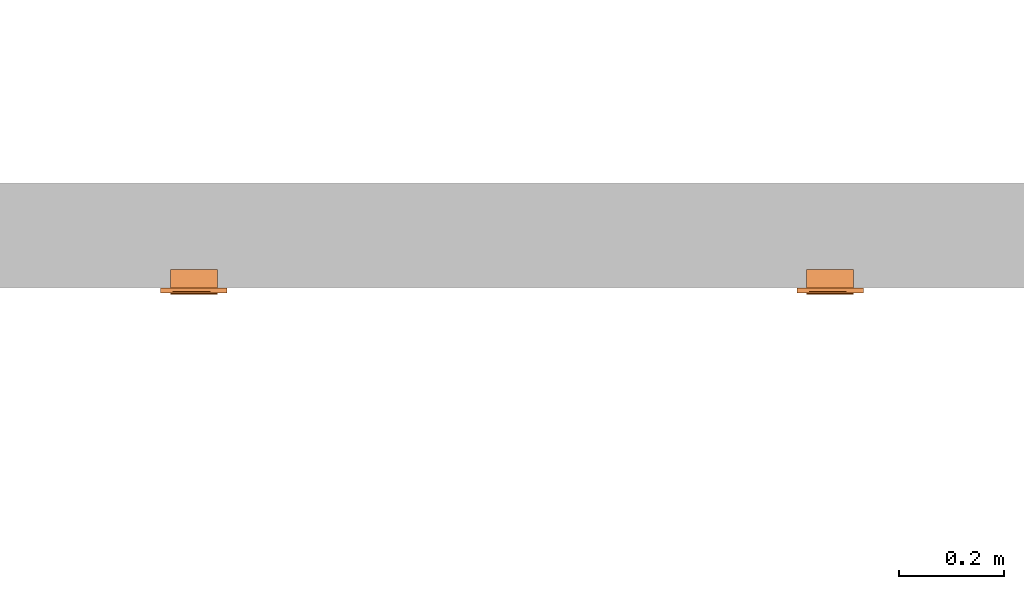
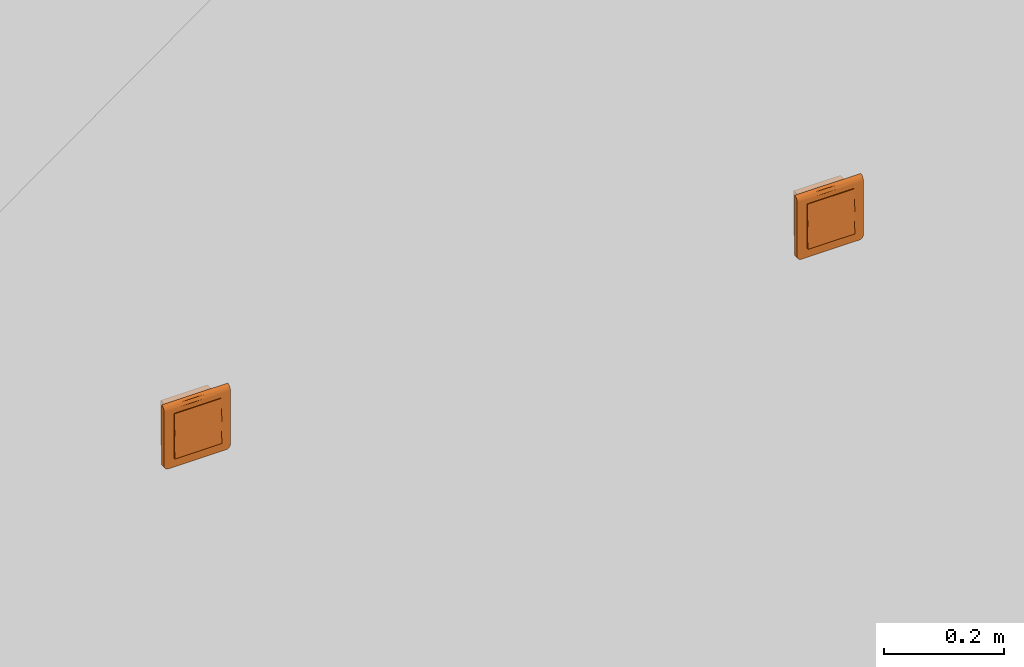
# One storey, part 178 of 197: 2 proxies.
"""IFC2X3 building model written with IfcOpenShell, lengths in metres."""

import ifcopenshell
import ifcopenshell.guid

model = None  # the IFC model being written
_history = None  # IfcOwnerHistory: only IFC2X3 demands one
_inside = {}  # id of a spatial element -> (the spatial element, [elements in it])
_under = {}  # id of a project, library or spatial element -> (it, [spatial elements below it])
_declared = {}  # id of a project -> (the project, [libraries it declares])
_typed = {}  # id of a type object -> (the type object, [elements of that type])
_made_of = {}  # id of a material, layer set ... -> (it, [elements and type objects made of it])


def new_model(schema):
    """Start an empty IFC model of exactly this schema.

    Asked for "IFC4X3", IfcOpenShell would pick the latest addendum, in which some entities
    have other attributes; the version numbers below select the first issue.
    IFC2X3 requires an IfcOwnerHistory on every rooted entity: one is made here for all.
    """
    global model, _history
    if schema == "IFC4X3":
        model = ifcopenshell.file(schema_version=(4, 3, 0, 0))
    else:
        model = ifcopenshell.file(schema=schema)
    _inside.clear()
    _under.clear()
    _declared.clear()
    _typed.clear()
    _made_of.clear()
    _history = None
    if model.schema == "IFC2X3":
        org = make("IfcOrganization", Name="unknown")
        user = make(
            "IfcPersonAndOrganization",
            ThePerson=make("IfcPerson", FamilyName="unknown"),
            TheOrganization=org,
        )
        app = make(
            "IfcApplication",
            ApplicationDeveloper=org,
            Version="unknown",
            ApplicationFullName="unknown",
            ApplicationIdentifier="unknown",
        )
        _history = make(
            "IfcOwnerHistory",
            OwningUser=user,
            OwningApplication=app,
            ChangeAction="ADDED",
            CreationDate=0,
        )
    return model


def make(cls, **values):
    """One entity of the class cls with the attributes given. An attribute that is None is left unset."""
    return model.create_entity(
        cls, **{name: value for name, value in values.items() if value is not None}
    )


def entity(cls, *values):
    """Any entity or typed value of the class cls, its attributes in the order of the schema. None: left unset."""
    e = model.create_entity(cls)
    for i, value in enumerate(values):
        if value is not None:
            e[i] = value
    return e


def rooted(cls, **values):
    """An entity with a GlobalId (a new one), such as an element, a storey or a relation."""
    return make(cls, GlobalId=ifcopenshell.guid.new(), OwnerHistory=_history, **values)


def si_unit(unit_type, name, prefix=None):
    """IfcSIUnit, for example si_unit("LENGTHUNIT", "METRE", prefix="MILLI")."""
    return make("IfcSIUnit", UnitType=unit_type, Prefix=prefix, Name=name)


def converted_unit(unit_type, name, factor, base, dimensions=None, offset=None):
    """IfcConversionBasedUnit, such as the inch: factor (a typed value) times the base unit."""
    return make(
        "IfcConversionBasedUnit"
        if offset is None
        else "IfcConversionBasedUnitWithOffset",
        ConversionOffset=offset,
        Dimensions=None
        if dimensions is None
        else entity("IfcDimensionalExponents", *dimensions),
        UnitType=unit_type,
        Name=name,
        ConversionFactor=make(
            "IfcMeasureWithUnit", ValueComponent=factor, UnitComponent=base
        ),
    )


def assignment(units):
    """IfcUnitAssignment: the units of a project."""
    return None if units is None else make("IfcUnitAssignment", Units=units)


def point(xyz):
    """IfcCartesianPoint."""
    return None if xyz is None else make("IfcCartesianPoint", Coordinates=xyz)


def direction(xyz):
    """IfcDirection."""
    return None if xyz is None else make("IfcDirection", DirectionRatios=xyz)


def frame(location, z_axis=None, x_axis=None):
    """IfcAxis2Placement3D, a coordinate frame: its origin and axes. An axis left out is left unset."""
    return make(
        "IfcAxis2Placement3D",
        Location=point(location),
        Axis=direction(z_axis),
        RefDirection=direction(x_axis),
    )


def origin():
    """The frame at (0, 0, 0) with its axes left unset."""
    return frame((0.0, 0.0, 0.0))


def place(relative_to, where):
    """IfcLocalPlacement: puts the frame where relative to a parent placement (None: the world)."""
    return make(
        "IfcLocalPlacement", PlacementRelTo=relative_to, RelativePlacement=where
    )


def context(
    kind, dimensions, precision=None, world=None, true_north=None, identifier=None
):
    """IfcGeometricRepresentationContext, for example the 3D "Model" context."""
    return make(
        "IfcGeometricRepresentationContext",
        ContextIdentifier=identifier,
        ContextType=kind,
        CoordinateSpaceDimension=dimensions,
        Precision=precision,
        WorldCoordinateSystem=world,
        TrueNorth=true_north,
    )


def subcontext(parent, identifier, kind, view, scale=None):
    """IfcGeometricRepresentationSubContext, for example "Body" below "Model"."""
    return make(
        "IfcGeometricRepresentationSubContext",
        ContextIdentifier=identifier,
        ContextType=kind,
        ParentContext=parent,
        TargetScale=scale,
        TargetView=view,
    )


def project(units=None, contexts=None):
    """IfcProject with its units and contexts."""
    return rooted(
        "IfcProject",
        Name="project",
        RepresentationContexts=contexts,
        UnitsInContext=assignment(units),
    )


def spatial(cls, under=None, at=None, **own):
    """A site, building, storey or space (cls), placed at a placement, below another one or the project."""
    s = rooted(cls, ObjectPlacement=at, **own)
    if under is not None:
        _under.setdefault(under.id(), (under, []))[1].append(s)
    return s


def faces_of(points, faces, orient=None, outer=None):
    """IfcFace entities. A face is a list of loops; a loop is a list of indices into points, from 0.

    orient and outer hold one flag for each loop. By default every Orientation is true, the
    first loop of a face is its IfcFaceOuterBound and the others are IfcFaceBound.
    """
    made = []
    for i, loops in enumerate(faces):
        bounds = []
        for j, loop in enumerate(loops):
            is_outer = j == 0 if outer is None else outer[i][j]
            bounds.append(
                make(
                    "IfcFaceOuterBound" if is_outer else "IfcFaceBound",
                    Bound=make("IfcPolyLoop", Polygon=[points[k] for k in loop]),
                    Orientation=True if orient is None else orient[i][j],
                )
            )
        made.append(make("IfcFace", Bounds=bounds))
    return made


def faceted_brep(points, faces, orient=None, outer=None, voids=None):
    """IfcFacetedBrep: a solid bounded by flat faces; with voids (closed shells), ...WithVoids."""
    shared = [point(p) for p in points]
    hull = make("IfcClosedShell", CfsFaces=faces_of(shared, faces, orient, outer))
    if voids is None:
        return make("IfcFacetedBrep", Outer=hull)
    return make(
        "IfcFacetedBrepWithVoids",
        Outer=hull,
        Voids=[
            make(cls, CfsFaces=faces_of(shared, fs, o, b)) for cls, fs, o, b in voids
        ],
    )


def shape(context_of_items, identifier, shape_type, items):
    """IfcShapeRepresentation: the items that make up one representation, for example the "Body"."""
    return make(
        "IfcShapeRepresentation",
        ContextOfItems=context_of_items,
        RepresentationIdentifier=identifier,
        RepresentationType=shape_type,
        Items=items,
    )


def source(mapping_origin, context_of_items, identifier, shape_type, items):
    """IfcRepresentationMap: a shape defined once, which mapped items show again and again."""
    return make(
        "IfcRepresentationMap",
        MappingOrigin=mapping_origin,
        MappedRepresentation=shape(context_of_items, identifier, shape_type, items),
    )


def transform(
    local_origin,
    x_axis=None,
    y_axis=None,
    z_axis=None,
    scale=None,
    scale2=None,
    scale3=None,
    uniform=True,
):
    """IfcCartesianTransformationOperator3D, or its non-uniform kind. x_axis, y_axis, z_axis: its Axis1, 2, 3."""
    if uniform:
        return make(
            "IfcCartesianTransformationOperator3D",
            Axis1=direction(x_axis),
            Axis2=direction(y_axis),
            LocalOrigin=point(local_origin),
            Scale=scale,
            Axis3=direction(z_axis),
        )
    return make(
        "IfcCartesianTransformationOperator3DnonUniform",
        Axis1=direction(x_axis),
        Axis2=direction(y_axis),
        LocalOrigin=point(local_origin),
        Scale=scale,
        Axis3=direction(z_axis),
        Scale2=scale2,
        Scale3=scale3,
    )


def mapped(mapping_source, mapping_target):
    """IfcMappedItem: shows the shape of a source again, moved by a transform."""
    return make(
        "IfcMappedItem", MappingSource=mapping_source, MappingTarget=mapping_target
    )


def material(Name=None, Category=None):
    """IfcMaterial."""
    return make("IfcMaterial", Name=Name, Category=Category)


def material_list(materials):
    """IfcMaterialList."""
    return make("IfcMaterialList", Materials=materials)


def made_of(thing, what):
    """Note that an element or type object is made of a material, layer set ...; save() writes the relation."""
    if what is not None:
        _made_of.setdefault(what.id(), (what, []))[1].append(thing)
    return thing


def type_object(cls, material=None, **own):
    """A type object (cls), such as IfcWallType, which elements share."""
    return made_of(rooted(cls, **own), material)


def type_shapes(of_type, sources):
    """Give a type object the sources (RepresentationMaps) that its elements show as mapped items."""
    of_type.RepresentationMaps = sources


def element(
    cls,
    number,
    at=None,
    inside=None,
    cuts=None,
    type_object=None,
    material=None,
    context=None,
    identifier="Body",
    shape_type=None,
    held_by="IfcProductDefinitionShape",
    body=None,
    shapes=None,
    **own,
):
    """One element of the class cls, such as IfcWall. Its Tag is "e" and its number.

    at: its placement. inside: the storey or other place that contains it. cuts: it is an
    opening in that element (IfcRelVoidsElement). A single representation is given by context,
    identifier, shape_type and body (its items); several are given by shapes. held_by: the class
    of the entity that holds the representations. save() writes the other relations.
    """
    e = rooted(cls, Tag="e%d" % number, ObjectPlacement=at, **own)
    if body is not None:
        shapes = [shape(context, identifier, shape_type, body)]
    if shapes is not None:
        e.Representation = make(held_by, Representations=shapes)
    if inside is not None:
        _inside.setdefault(inside.id(), (inside, []))[1].append(e)
    if cuts is not None:
        rooted(
            "IfcRelVoidsElement", RelatingBuildingElement=cuts, RelatedOpeningElement=e
        )
    if type_object is not None:
        _typed.setdefault(type_object.id(), (type_object, []))[1].append(e)
    return made_of(e, material)


def aggregate(whole, parts):
    """IfcRelAggregates: a whole, such as a stair, and the parts it consists of."""
    return rooted("IfcRelAggregates", RelatingObject=whole, RelatedObjects=parts)


def save(model, path):
    """Write the relations noted so far, then the file.

    IfcRelAggregates (storeys below a building ...), IfcRelContainedInSpatialStructure (elements
    in a storey), IfcRelDefinesByType, IfcRelAssociatesMaterial and IfcRelDeclares: one each for
    every whole, place, type object, material and project.
    """
    for whole, parts in _under.values():
        aggregate(whole, parts)
    for where, things in _inside.values():
        rooted(
            "IfcRelContainedInSpatialStructure",
            RelatedElements=things,
            RelatingStructure=where,
        )
    for kind, things in _typed.values():
        rooted("IfcRelDefinesByType", RelatedObjects=things, RelatingType=kind)
    for what, things in _made_of.values():
        rooted("IfcRelAssociatesMaterial", RelatedObjects=things, RelatingMaterial=what)
    for by, libraries in _declared.values():
        rooted("IfcRelDeclares", RelatingContext=by, RelatedDefinitions=libraries)
    model.write(path)


model = new_model("IFC2X3")

# Units and contexts
model_context = context("Model", 3, precision=1e-05, world=origin(), true_north=direction((6.123031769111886e-17, 1.0)))
body_context = subcontext(model_context, "Body", "Model", "MODEL_VIEW")
ifc_project = project(units=[si_unit("LENGTHUNIT", "METRE"), converted_unit("PLANEANGLEUNIT", "DEGREE", entity("IfcPlaneAngleMeasure", 0.017453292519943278), si_unit("PLANEANGLEUNIT", "RADIAN"), dimensions=[0, 0, 0, 0, 0, 0, 0]), si_unit("AREAUNIT", "SQUARE_METRE")], contexts=[model_context])

# Site, building, storey
site_placement = place(None, origin())
site = spatial("IfcSite", under=ifc_project, at=site_placement, Name="Default", CompositionType="ELEMENT")
building_placement = place(site_placement, origin())
building = spatial("IfcBuilding", under=site, at=building_placement, CompositionType="ELEMENT")
storey_placement = place(building_placement, origin())
storey = spatial("IfcBuildingStorey", under=building, at=storey_placement, Name="Niveau 0", CompositionType="ELEMENT", Elevation=0.0)

# Proxies
ifc_material_1 = material(Name="<Unnamed>")
ifc_material_2 = material(Name="BETCE-DOIGT-BLANC")
ifc_material_3 = material(Name="BETCE-ENJOLIVEUR-BLANC")
ifc_material_list = material_list([ifc_material_1, ifc_material_2, ifc_material_3])
building_element_proxy_type_1 = type_object("IfcBuildingElementProxyType", Name="Tableau commande 2x4 modules encastré:2 BP + 6 VV", PredefinedType="NOTDEFINED", material=ifc_material_list)
shared_shape_1 = source(origin(), body_context, "Body", "Brep", [
    faceted_brep([(0.04499999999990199, 0.0, 0.0), (0.04499999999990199, 0.03499999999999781, 0.0), (0.022499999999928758, 0.03499999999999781, 0.0), (0.022499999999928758, 0.0, 0.0), (0.04499999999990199, 0.0, -0.045000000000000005), (0.022499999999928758, 0.0, -0.045000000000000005), (0.022499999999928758, 0.03499999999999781, -0.045000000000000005), (0.04499999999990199, 0.03499999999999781, -0.045000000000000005)], [[[0, 1, 2, 3]], [[4, 5, 6, 7]], [[1, 0, 4, 7]], [[2, 1, 7, 6]], [[3, 2, 6, 5]], [[0, 3, 5, 4]]]),
    faceted_brep([(0.04499999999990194, 0.0, 0.045000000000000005), (0.04499999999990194, 0.03499999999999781, 0.045000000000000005), (0.022499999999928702, 0.03499999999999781, 0.045000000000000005), (0.022499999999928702, 0.0, 0.045000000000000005), (0.04499999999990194, 0.0, 0.0), (0.022499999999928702, 0.0, 0.0), (0.022499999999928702, 0.03499999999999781, 0.0), (0.04499999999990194, 0.03499999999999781, 0.0)], [[[0, 1, 2, 3]], [[4, 5, 6, 7]], [[1, 0, 4, 7]], [[2, 1, 7, 6]], [[3, 2, 6, 5]], [[0, 3, 5, 4]]]),
    faceted_brep([(0.022499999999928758, 0.0, 0.0), (0.022499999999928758, 0.03499999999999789, 0.0), (0.0, 0.03499999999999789, 0.0), (0.0, 0.0, 0.0), (0.022499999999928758, 0.0, -0.045000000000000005), (0.0, 0.0, -0.045000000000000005), (0.0, 0.03499999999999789, -0.045000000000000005), (0.022499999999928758, 0.03499999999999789, -0.045000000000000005)], [[[0, 1, 2, 3]], [[4, 5, 6, 7]], [[1, 0, 4, 7]], [[2, 1, 7, 6]], [[3, 2, 6, 5]], [[0, 3, 5, 4]]]),
    faceted_brep([(0.0224999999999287, 0.0, 0.045000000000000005), (0.0224999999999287, 0.03499999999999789, 0.045000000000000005), (0.0, 0.03499999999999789, 0.045000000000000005), (0.0, 0.0, 0.045000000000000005), (0.0224999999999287, 0.0, 0.0), (0.0, 0.0, 0.0), (0.0, 0.03499999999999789, 0.0), (0.0224999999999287, 0.03499999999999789, 0.0)], [[[0, 1, 2, 3]], [[4, 5, 6, 7]], [[1, 0, 4, 7]], [[2, 1, 7, 6]], [[3, 2, 6, 5]], [[0, 3, 5, 4]]]),
    faceted_brep([(0.0, 0.0, 0.0), (0.0, 0.034999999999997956, 0.0), (-0.022500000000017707, 0.034999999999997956, 0.0), (-0.022500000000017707, 0.0, 0.0), (0.0, 0.0, -0.045000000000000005), (-0.022500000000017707, 0.0, -0.045000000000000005), (-0.022500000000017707, 0.034999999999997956, -0.045000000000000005), (0.0, 0.034999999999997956, -0.045000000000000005)], [[[0, 1, 2, 3]], [[4, 5, 6, 7]], [[1, 0, 4, 7]], [[2, 1, 7, 6]], [[3, 2, 6, 5]], [[0, 3, 5, 4]]]),
    faceted_brep([(0.0, 0.0, 0.045000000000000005), (0.0, 0.034999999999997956, 0.045000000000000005), (-0.022500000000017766, 0.034999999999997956, 0.045000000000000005), (-0.022500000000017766, 0.0, 0.045000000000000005), (0.0, 0.0, 0.0), (-0.022500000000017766, 0.0, 0.0), (-0.022500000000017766, 0.034999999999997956, 0.0), (0.0, 0.034999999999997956, 0.0)], [[[0, 1, 2, 3]], [[4, 5, 6, 7]], [[1, 0, 4, 7]], [[2, 1, 7, 6]], [[3, 2, 6, 5]], [[0, 3, 5, 4]]]),
    faceted_brep([(-0.02250000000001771, 0.0, 0.0), (-0.02250000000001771, 0.034999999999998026, 0.0), (-0.044999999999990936, 0.034999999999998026, 0.0), (-0.044999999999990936, 0.0, 0.0), (-0.02250000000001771, 0.0, -0.045000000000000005), (-0.044999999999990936, 0.0, -0.045000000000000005), (-0.044999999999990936, 0.034999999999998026, -0.045000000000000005), (-0.02250000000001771, 0.034999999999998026, -0.045000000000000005)], [[[0, 1, 2, 3]], [[4, 5, 6, 7]], [[1, 0, 4, 7]], [[2, 1, 7, 6]], [[3, 2, 6, 5]], [[0, 3, 5, 4]]]),
    faceted_brep([(-0.022500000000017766, 0.0, 0.045000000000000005), (-0.022500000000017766, 0.034999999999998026, 0.045000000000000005), (-0.044999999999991, 0.034999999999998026, 0.045000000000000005), (-0.044999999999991, 0.0, 0.045000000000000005), (-0.022500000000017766, 0.0, 0.0), (-0.044999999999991, 0.0, 0.0), (-0.044999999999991, 0.034999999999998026, 0.0), (-0.022500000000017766, 0.034999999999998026, 0.0)], [[[0, 1, 2, 3]], [[4, 5, 6, 7]], [[1, 0, 4, 7]], [[2, 1, 7, 6]], [[3, 2, 6, 5]], [[0, 3, 5, 4]]]),
    faceted_brep([(0.022499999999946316, 0.0, -0.045000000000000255), (0.022499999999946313, 0.0, 0.0), (0.04499999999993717, 0.0, 0.0), (0.04499999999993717, 0.0, -0.045000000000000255), (0.022499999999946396, -0.012750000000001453, -0.045000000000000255), (0.022499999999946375, -0.010500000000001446, 0.0), (0.044999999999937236, -0.010500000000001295, 0.0), (0.04499999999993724, -0.012750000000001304, -0.045000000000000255)], [[[0, 1, 2, 3]], [[1, 0, 4, 5]], [[2, 1, 5, 6]], [[3, 2, 6, 7]], [[0, 3, 7, 4]], [[5, 4, 7, 6]]]),
    faceted_brep([(0.0, 0.0, -0.04500000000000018), (0.0, 0.0, 0.0), (0.022499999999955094, 0.0, 0.0), (0.022499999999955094, 0.0, -0.04500000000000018), (0.0, -0.012750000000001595, -0.04500000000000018), (0.0, -0.010500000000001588, 0.0), (0.022499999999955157, -0.01050000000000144, 0.0), (0.022499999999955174, -0.012750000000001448, -0.04500000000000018)], [[[0, 1, 2, 3]], [[1, 0, 4, 5]], [[2, 1, 5, 6]], [[3, 2, 6, 7]], [[0, 3, 7, 4]], [[5, 4, 7, 6]]]),
    faceted_brep([(-0.022500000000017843, 0.0, -0.0450000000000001), (-0.022500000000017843, 0.0, 0.0), (0.0, 0.0, 0.0), (0.0, 0.0, -0.0450000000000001), (-0.02250000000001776, -0.012750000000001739, -0.0450000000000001), (-0.022500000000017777, -0.010500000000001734, 0.0), (0.0, -0.010500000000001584, 0.0), (0.0, -0.012750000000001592, -0.0450000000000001)], [[[0, 1, 2, 3]], [[1, 0, 4, 5]], [[2, 1, 5, 6]], [[3, 2, 6, 7]], [[0, 3, 7, 4]], [[5, 4, 7, 6]]]),
    faceted_brep([(-0.04499999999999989, 0.0, -0.045000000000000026), (-0.04499999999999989, 0.0, 0.0), (-0.022500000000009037, 0.0, 0.0), (-0.022500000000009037, 0.0, -0.045000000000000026), (-0.04499999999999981, -0.012750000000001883, -0.045000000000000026), (-0.04499999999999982, -0.010500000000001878, 0.0), (-0.022500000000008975, -0.01050000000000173, 0.0), (-0.022500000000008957, -0.012750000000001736, -0.045000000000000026)], [[[0, 1, 2, 3]], [[1, 0, 4, 5]], [[2, 1, 5, 6]], [[3, 2, 6, 7]], [[0, 3, 7, 4]], [[5, 4, 7, 6]]]),
    faceted_brep([(0.02249999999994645, -0.010500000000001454, 0.04499999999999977), (0.022499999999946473, -0.012750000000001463, 0.0), (0.04499999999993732, -0.012750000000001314, 0.0), (0.044999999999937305, -0.010500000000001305, 0.04499999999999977), (0.022499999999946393, 0.0, 0.0), (0.02249999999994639, 0.0, 0.04499999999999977), (0.04499999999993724, 0.0, 0.04499999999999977), (0.04499999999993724, 0.0, 0.0)], [[[0, 1, 2, 3]], [[4, 5, 6, 7]], [[5, 4, 1, 0]], [[6, 5, 0, 3]], [[7, 6, 3, 2]], [[4, 7, 2, 1]]]),
    faceted_brep([(0.0, -0.010500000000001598, 0.044999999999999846), (0.0, -0.012750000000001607, 0.0), (0.02249999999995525, -0.012750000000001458, 0.0), (0.022499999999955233, -0.010500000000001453, 0.044999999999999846), (0.0, 0.0, 0.0), (0.0, 0.0, 0.044999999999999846), (0.02249999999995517, 0.0, 0.04499999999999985), (0.02249999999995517, 0.0, 0.0)], [[[0, 1, 2, 3]], [[4, 5, 6, 7]], [[5, 4, 1, 0]], [[6, 5, 0, 3]], [[7, 6, 3, 2]], [[4, 7, 2, 1]]]),
    faceted_brep([(-0.0225000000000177, -0.010500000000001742, 0.04499999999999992), (-0.022500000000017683, -0.01275000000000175, 0.0), (0.0, -0.012750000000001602, 0.0), (0.0, -0.010500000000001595, 0.04499999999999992), (-0.022500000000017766, 0.0, 0.0), (-0.022500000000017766, 0.0, 0.04499999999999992), (0.0, 0.0, 0.04499999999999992), (0.0, 0.0, 0.0)], [[[0, 1, 2, 3]], [[4, 5, 6, 7]], [[5, 4, 1, 0]], [[6, 5, 0, 3]], [[7, 6, 3, 2]], [[4, 7, 2, 1]]]),
    faceted_brep([(-0.044999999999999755, -0.010500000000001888, 0.045), (-0.044999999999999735, -0.012750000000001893, 0.0), (-0.02250000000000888, -0.012750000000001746, 0.0), (-0.0225000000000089, -0.010500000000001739, 0.045), (-0.04499999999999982, 0.0, 0.0), (-0.04499999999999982, 0.0, 0.045), (-0.022500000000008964, 0.0, 0.045000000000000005), (-0.022500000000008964, 0.0, 0.0)], [[[0, 1, 2, 3]], [[4, 5, 6, 7]], [[5, 4, 1, 0]], [[6, 5, 0, 3]], [[7, 6, 3, 2]], [[4, 7, 2, 1]]]),
    faceted_brep([(0.06350000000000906, -0.009000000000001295, -0.055500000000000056), (0.06350000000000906, -0.009000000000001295, 0.05450000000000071), (0.045000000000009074, -0.00900000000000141, -0.045000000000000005), (0.055500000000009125, -0.009000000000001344, -0.06350000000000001), (0.057570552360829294, -0.009000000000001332, -0.06322740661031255), (0.06322740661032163, -0.009000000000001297, -0.05757055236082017), (0.04500000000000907, -0.00900000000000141, 0.045), (-0.044999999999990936, -0.00900000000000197, 0.045000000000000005), (-0.01112442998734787, -0.009000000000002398, 0.054500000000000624), (-0.06349999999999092, -0.009000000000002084, 0.05450000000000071), (-0.044999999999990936, -0.00900000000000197, -0.045000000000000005), (-0.06349999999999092, -0.009000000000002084, -0.05550000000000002), (-0.055499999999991, -0.009000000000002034, -0.06350000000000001), (-0.0575705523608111, -0.009000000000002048, -0.06322740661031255), (-0.06322740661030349, -0.009000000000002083, -0.05757055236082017), (-0.05949999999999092, -0.00900000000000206, -0.062428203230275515), (-0.062428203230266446, -0.009000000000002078, -0.05950000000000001), (-0.06115685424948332, -0.00900000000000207, -0.06115685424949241), (0.059500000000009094, -0.00900000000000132, -0.062428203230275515), (0.062428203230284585, -0.009000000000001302, -0.05949999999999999), (0.06115685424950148, -0.009000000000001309, -0.061156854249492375), (-0.063499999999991, 0.0, -0.05550000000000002), (-0.063499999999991, 0.0, 0.06350000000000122), (-0.044999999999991, 0.0, 0.045000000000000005), (-0.044999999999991, 0.0, -0.045000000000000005), (-0.055499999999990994, 0.0, -0.06350000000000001), (-0.06322740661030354, 0.0, -0.05757055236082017), (0.045000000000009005, 0.0, 0.045000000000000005), (0.011124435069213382, 0.0, 0.06350000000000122), (0.06350000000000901, 0.0, 0.0635), (0.06350000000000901, 0.0, -0.05550000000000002), (0.045000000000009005, 0.0, -0.045000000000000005), (0.05550000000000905, 0.0, -0.06350000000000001), (0.06322740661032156, 0.0, -0.05757055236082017), (0.057570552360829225, 0.0, -0.06322740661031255), (0.06242820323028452, 0.0, -0.05949999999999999), (0.05950000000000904, 0.0, -0.062428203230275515), (0.06115685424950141, 0.0, -0.061156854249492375), (-0.05757055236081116, 0.0, -0.06322740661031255), (-0.0624282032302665, 0.0, -0.05950000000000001), (-0.059499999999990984, 0.0, -0.062428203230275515), (-0.06115685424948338, 0.0, -0.06115685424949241), (0.06350000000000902, -0.00232937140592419, 0.06319333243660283), (0.06350000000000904, -0.004500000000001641, 0.06229422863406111), (0.06350000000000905, -0.006363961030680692, 0.06086396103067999), (0.06350000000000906, -0.007794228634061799, 0.05900000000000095), (0.06350000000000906, -0.008693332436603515, 0.056829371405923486), (-0.06349999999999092, -0.00869333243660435, 0.0568293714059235), (-0.06349999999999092, -0.007794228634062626, 0.059000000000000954), (-0.06349999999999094, -0.006363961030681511, 0.06086396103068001), (-0.06349999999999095, -0.004500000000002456, 0.062294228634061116), (-0.06349999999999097, -0.002329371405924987, 0.06319333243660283), (-0.010857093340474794, -0.006120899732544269, 0.06109807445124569)], [[[0, 1, 2]], [[3, 0, 2]], [[0, 3, 4]], [[5, 0, 4]], [[2, 1, 6]], [[1, 7, 6]], [[7, 1, 8]], [[7, 8, 9]], [[10, 7, 9]], [[11, 10, 9]], [[12, 10, 11]], [[12, 11, 13]], [[13, 11, 14]], [[15, 13, 14]], [[16, 15, 14]], [[15, 16, 17]], [[10, 12, 3]], [[2, 10, 3]], [[5, 4, 18]], [[5, 18, 19]], [[20, 19, 18]], [[21, 22, 23]], [[24, 21, 23]], [[25, 21, 24]], [[26, 21, 25]], [[22, 27, 23]], [[27, 22, 28]], [[27, 28, 29]], [[30, 27, 29]], [[31, 27, 30]], [[32, 31, 30]], [[32, 30, 33]], [[32, 33, 34]], [[33, 35, 34]], [[35, 36, 34]], [[36, 35, 37]], [[31, 32, 25]], [[26, 25, 38]], [[24, 31, 25]], [[39, 26, 38]], [[39, 38, 40]], [[41, 39, 40]], [[1, 0, 30, 29, 42, 43, 44, 45, 46]], [[33, 30, 0, 5]], [[35, 33, 5, 19]], [[37, 35, 19, 20]], [[36, 37, 20, 18]], [[34, 36, 18, 4]], [[32, 34, 4, 3]], [[25, 32, 3, 12]], [[38, 25, 12, 13]], [[40, 38, 13, 15]], [[41, 40, 15, 17]], [[39, 41, 17, 16]], [[26, 39, 16, 14]], [[21, 26, 14, 11]], [[22, 21, 11, 9, 47, 48, 49, 50, 51]], [[24, 23, 7, 10]], [[31, 24, 10, 2]], [[27, 31, 2, 6]], [[23, 27, 6, 7]], [[52, 8, 45]], [[47, 9, 8]], [[1, 46, 8]], [[44, 52, 45]], [[46, 45, 8]], [[50, 52, 51]], [[48, 47, 8]], [[28, 52, 43]], [[48, 52, 49]], [[42, 29, 28]], [[28, 22, 51]], [[48, 8, 52]], [[28, 43, 42]], [[44, 43, 52]], [[52, 50, 49]], [[52, 28, 51]]]),
])
type_shapes(building_element_proxy_type_1, [shared_shape_1])
proxy_1_placement = place(storey_placement, frame((-353.6250435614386, 122.781355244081, 1.1)))
element("IfcBuildingElementProxy", 1, at=proxy_1_placement, inside=storey, type_object=building_element_proxy_type_1, material=ifc_material_list, Name="Tableau commande 2x4 modules encastré:2 BP + 6 VV", ObjectType="Tableau commande 2x4 modules encastré:2 BP + 6 VV", context=body_context, shape_type="MappedRepresentation", body=[
    mapped(shared_shape_1, transform((0.0, 0.0, 0.0), scale=1.0)),
])
building_element_proxy_type_2 = type_object("IfcBuildingElementProxyType", Name="Tableau commande 2x4 modules encastré:3 BP + 5 VV", PredefinedType="NOTDEFINED", material=ifc_material_list)
shared_shape_2 = source(origin(), body_context, "Body", "Brep", [
    faceted_brep([(0.04499999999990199, 0.0, 0.0), (0.04499999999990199, 0.03499999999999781, 0.0), (0.022499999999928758, 0.03499999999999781, 0.0), (0.022499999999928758, 0.0, 0.0), (0.04499999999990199, 0.0, -0.045000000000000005), (0.022499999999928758, 0.0, -0.045000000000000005), (0.022499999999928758, 0.03499999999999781, -0.045000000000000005), (0.04499999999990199, 0.03499999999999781, -0.045000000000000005)], [[[0, 1, 2, 3]], [[4, 5, 6, 7]], [[1, 0, 4, 7]], [[2, 1, 7, 6]], [[3, 2, 6, 5]], [[0, 3, 5, 4]]]),
    faceted_brep([(0.04499999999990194, 0.0, 0.045000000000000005), (0.04499999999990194, 0.03499999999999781, 0.045000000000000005), (0.022499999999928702, 0.03499999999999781, 0.045000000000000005), (0.022499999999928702, 0.0, 0.045000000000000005), (0.04499999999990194, 0.0, 0.0), (0.022499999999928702, 0.0, 0.0), (0.022499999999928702, 0.03499999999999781, 0.0), (0.04499999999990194, 0.03499999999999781, 0.0)], [[[0, 1, 2, 3]], [[4, 5, 6, 7]], [[1, 0, 4, 7]], [[2, 1, 7, 6]], [[3, 2, 6, 5]], [[0, 3, 5, 4]]]),
    faceted_brep([(0.022499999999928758, 0.0, 0.0), (0.022499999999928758, 0.03499999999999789, 0.0), (0.0, 0.03499999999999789, 0.0), (0.0, 0.0, 0.0), (0.022499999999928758, 0.0, -0.045000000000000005), (0.0, 0.0, -0.045000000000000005), (0.0, 0.03499999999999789, -0.045000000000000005), (0.022499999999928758, 0.03499999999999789, -0.045000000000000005)], [[[0, 1, 2, 3]], [[4, 5, 6, 7]], [[1, 0, 4, 7]], [[2, 1, 7, 6]], [[3, 2, 6, 5]], [[0, 3, 5, 4]]]),
    faceted_brep([(0.0224999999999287, 0.0, 0.045000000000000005), (0.0224999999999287, 0.03499999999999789, 0.045000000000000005), (0.0, 0.03499999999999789, 0.045000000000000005), (0.0, 0.0, 0.045000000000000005), (0.0224999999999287, 0.0, 0.0), (0.0, 0.0, 0.0), (0.0, 0.03499999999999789, 0.0), (0.0224999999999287, 0.03499999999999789, 0.0)], [[[0, 1, 2, 3]], [[4, 5, 6, 7]], [[1, 0, 4, 7]], [[2, 1, 7, 6]], [[3, 2, 6, 5]], [[0, 3, 5, 4]]]),
    faceted_brep([(0.0, 0.0, 0.0), (0.0, 0.034999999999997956, 0.0), (-0.022500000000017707, 0.034999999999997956, 0.0), (-0.022500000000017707, 0.0, 0.0), (0.0, 0.0, -0.045000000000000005), (-0.022500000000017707, 0.0, -0.045000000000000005), (-0.022500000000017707, 0.034999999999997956, -0.045000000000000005), (0.0, 0.034999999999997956, -0.045000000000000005)], [[[0, 1, 2, 3]], [[4, 5, 6, 7]], [[1, 0, 4, 7]], [[2, 1, 7, 6]], [[3, 2, 6, 5]], [[0, 3, 5, 4]]]),
    faceted_brep([(0.0, 0.0, 0.045000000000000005), (0.0, 0.034999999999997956, 0.045000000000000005), (-0.022500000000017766, 0.034999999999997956, 0.045000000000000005), (-0.022500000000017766, 0.0, 0.045000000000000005), (0.0, 0.0, 0.0), (-0.022500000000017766, 0.0, 0.0), (-0.022500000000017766, 0.034999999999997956, 0.0), (0.0, 0.034999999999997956, 0.0)], [[[0, 1, 2, 3]], [[4, 5, 6, 7]], [[1, 0, 4, 7]], [[2, 1, 7, 6]], [[3, 2, 6, 5]], [[0, 3, 5, 4]]]),
    faceted_brep([(-0.02250000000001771, 0.0, 0.0), (-0.02250000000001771, 0.034999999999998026, 0.0), (-0.044999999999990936, 0.034999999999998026, 0.0), (-0.044999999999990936, 0.0, 0.0), (-0.02250000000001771, 0.0, -0.045000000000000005), (-0.044999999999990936, 0.0, -0.045000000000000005), (-0.044999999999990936, 0.034999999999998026, -0.045000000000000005), (-0.02250000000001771, 0.034999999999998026, -0.045000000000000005)], [[[0, 1, 2, 3]], [[4, 5, 6, 7]], [[1, 0, 4, 7]], [[2, 1, 7, 6]], [[3, 2, 6, 5]], [[0, 3, 5, 4]]]),
    faceted_brep([(-0.022500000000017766, 0.0, 0.045000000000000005), (-0.022500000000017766, 0.034999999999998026, 0.045000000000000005), (-0.044999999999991, 0.034999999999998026, 0.045000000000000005), (-0.044999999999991, 0.0, 0.045000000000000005), (-0.022500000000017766, 0.0, 0.0), (-0.044999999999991, 0.0, 0.0), (-0.044999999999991, 0.034999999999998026, 0.0), (-0.022500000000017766, 0.034999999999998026, 0.0)], [[[0, 1, 2, 3]], [[4, 5, 6, 7]], [[1, 0, 4, 7]], [[2, 1, 7, 6]], [[3, 2, 6, 5]], [[0, 3, 5, 4]]]),
    faceted_brep([(0.022499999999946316, 0.0, -0.045000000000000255), (0.022499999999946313, 0.0, 0.0), (0.04499999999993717, 0.0, 0.0), (0.04499999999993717, 0.0, -0.045000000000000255), (0.022499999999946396, -0.012750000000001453, -0.045000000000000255), (0.022499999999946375, -0.010500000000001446, 0.0), (0.044999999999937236, -0.010500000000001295, 0.0), (0.04499999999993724, -0.012750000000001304, -0.045000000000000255)], [[[0, 1, 2, 3]], [[1, 0, 4, 5]], [[2, 1, 5, 6]], [[3, 2, 6, 7]], [[0, 3, 7, 4]], [[5, 4, 7, 6]]]),
    faceted_brep([(0.0, 0.0, -0.04500000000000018), (0.0, 0.0, 0.0), (0.022499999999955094, 0.0, 0.0), (0.022499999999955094, 0.0, -0.04500000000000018), (0.0, -0.012750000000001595, -0.04500000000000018), (0.0, -0.010500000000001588, 0.0), (0.022499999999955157, -0.01050000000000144, 0.0), (0.022499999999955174, -0.012750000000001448, -0.04500000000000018)], [[[0, 1, 2, 3]], [[1, 0, 4, 5]], [[2, 1, 5, 6]], [[3, 2, 6, 7]], [[0, 3, 7, 4]], [[5, 4, 7, 6]]]),
    faceted_brep([(-0.022500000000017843, 0.0, -0.0450000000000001), (-0.022500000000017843, 0.0, 0.0), (0.0, 0.0, 0.0), (0.0, 0.0, -0.0450000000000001), (-0.02250000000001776, -0.012750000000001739, -0.0450000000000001), (-0.022500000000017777, -0.010500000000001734, 0.0), (0.0, -0.010500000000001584, 0.0), (0.0, -0.012750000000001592, -0.0450000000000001)], [[[0, 1, 2, 3]], [[1, 0, 4, 5]], [[2, 1, 5, 6]], [[3, 2, 6, 7]], [[0, 3, 7, 4]], [[5, 4, 7, 6]]]),
    faceted_brep([(-0.04499999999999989, 0.0, -0.045000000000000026), (-0.04499999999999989, 0.0, 0.0), (-0.022500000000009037, 0.0, 0.0), (-0.022500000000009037, 0.0, -0.045000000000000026), (-0.04499999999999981, -0.012750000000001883, -0.045000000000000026), (-0.04499999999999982, -0.010500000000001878, 0.0), (-0.022500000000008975, -0.01050000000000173, 0.0), (-0.022500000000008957, -0.012750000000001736, -0.045000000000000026)], [[[0, 1, 2, 3]], [[1, 0, 4, 5]], [[2, 1, 5, 6]], [[3, 2, 6, 7]], [[0, 3, 7, 4]], [[5, 4, 7, 6]]]),
    faceted_brep([(0.02249999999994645, -0.010500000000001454, 0.04499999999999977), (0.022499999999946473, -0.012750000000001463, 0.0), (0.04499999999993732, -0.012750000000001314, 0.0), (0.044999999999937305, -0.010500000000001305, 0.04499999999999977), (0.022499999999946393, 0.0, 0.0), (0.02249999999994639, 0.0, 0.04499999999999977), (0.04499999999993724, 0.0, 0.04499999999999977), (0.04499999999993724, 0.0, 0.0)], [[[0, 1, 2, 3]], [[4, 5, 6, 7]], [[5, 4, 1, 0]], [[6, 5, 0, 3]], [[7, 6, 3, 2]], [[4, 7, 2, 1]]]),
    faceted_brep([(0.0, -0.010500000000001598, 0.044999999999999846), (0.0, -0.012750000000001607, 0.0), (0.02249999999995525, -0.012750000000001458, 0.0), (0.022499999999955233, -0.010500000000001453, 0.044999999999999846), (0.0, 0.0, 0.0), (0.0, 0.0, 0.044999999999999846), (0.02249999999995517, 0.0, 0.04499999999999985), (0.02249999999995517, 0.0, 0.0)], [[[0, 1, 2, 3]], [[4, 5, 6, 7]], [[5, 4, 1, 0]], [[6, 5, 0, 3]], [[7, 6, 3, 2]], [[4, 7, 2, 1]]]),
    faceted_brep([(-0.0225000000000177, -0.010500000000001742, 0.04499999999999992), (-0.022500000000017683, -0.01275000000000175, 0.0), (0.0, -0.012750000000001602, 0.0), (0.0, -0.010500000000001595, 0.04499999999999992), (-0.022500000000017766, 0.0, 0.0), (-0.022500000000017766, 0.0, 0.04499999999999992), (0.0, 0.0, 0.04499999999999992), (0.0, 0.0, 0.0)], [[[0, 1, 2, 3]], [[4, 5, 6, 7]], [[5, 4, 1, 0]], [[6, 5, 0, 3]], [[7, 6, 3, 2]], [[4, 7, 2, 1]]]),
    faceted_brep([(-0.044999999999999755, -0.010500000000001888, 0.045), (-0.044999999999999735, -0.012750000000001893, 0.0), (-0.02250000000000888, -0.012750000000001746, 0.0), (-0.0225000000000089, -0.010500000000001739, 0.045), (-0.04499999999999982, 0.0, 0.0), (-0.04499999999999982, 0.0, 0.045), (-0.022500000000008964, 0.0, 0.045000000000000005), (-0.022500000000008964, 0.0, 0.0)], [[[0, 1, 2, 3]], [[4, 5, 6, 7]], [[5, 4, 1, 0]], [[6, 5, 0, 3]], [[7, 6, 3, 2]], [[4, 7, 2, 1]]]),
    faceted_brep([(0.06350000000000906, -0.009000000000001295, -0.055500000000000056), (0.06350000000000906, -0.009000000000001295, 0.05450000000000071), (0.045000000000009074, -0.00900000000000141, -0.045000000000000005), (0.055500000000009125, -0.009000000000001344, -0.06350000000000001), (0.057570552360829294, -0.009000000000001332, -0.06322740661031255), (0.06322740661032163, -0.009000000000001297, -0.05757055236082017), (0.04500000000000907, -0.00900000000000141, 0.045), (-0.044999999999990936, -0.00900000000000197, 0.045000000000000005), (-0.01112442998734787, -0.009000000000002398, 0.054500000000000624), (-0.06349999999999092, -0.009000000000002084, 0.05450000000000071), (-0.044999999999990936, -0.00900000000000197, -0.045000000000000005), (-0.06349999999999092, -0.009000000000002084, -0.05550000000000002), (-0.055499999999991, -0.009000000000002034, -0.06350000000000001), (-0.0575705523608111, -0.009000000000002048, -0.06322740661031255), (-0.06322740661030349, -0.009000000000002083, -0.05757055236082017), (-0.05949999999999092, -0.00900000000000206, -0.062428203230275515), (-0.062428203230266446, -0.009000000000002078, -0.05950000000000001), (-0.06115685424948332, -0.00900000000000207, -0.06115685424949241), (0.059500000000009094, -0.00900000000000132, -0.062428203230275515), (0.062428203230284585, -0.009000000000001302, -0.05949999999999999), (0.06115685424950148, -0.009000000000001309, -0.061156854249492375), (-0.063499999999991, 0.0, -0.05550000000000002), (-0.063499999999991, 0.0, 0.06350000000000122), (-0.044999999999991, 0.0, 0.045000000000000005), (-0.044999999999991, 0.0, -0.045000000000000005), (-0.055499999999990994, 0.0, -0.06350000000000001), (-0.06322740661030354, 0.0, -0.05757055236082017), (0.045000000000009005, 0.0, 0.045000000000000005), (0.011124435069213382, 0.0, 0.06350000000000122), (0.06350000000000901, 0.0, 0.0635), (0.06350000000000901, 0.0, -0.05550000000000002), (0.045000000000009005, 0.0, -0.045000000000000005), (0.05550000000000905, 0.0, -0.06350000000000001), (0.06322740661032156, 0.0, -0.05757055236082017), (0.057570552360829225, 0.0, -0.06322740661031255), (0.06242820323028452, 0.0, -0.05949999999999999), (0.05950000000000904, 0.0, -0.062428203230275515), (0.06115685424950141, 0.0, -0.061156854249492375), (-0.05757055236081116, 0.0, -0.06322740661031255), (-0.0624282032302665, 0.0, -0.05950000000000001), (-0.059499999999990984, 0.0, -0.062428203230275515), (-0.06115685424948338, 0.0, -0.06115685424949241), (0.06350000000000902, -0.00232937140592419, 0.06319333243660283), (0.06350000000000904, -0.004500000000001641, 0.06229422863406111), (0.06350000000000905, -0.006363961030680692, 0.06086396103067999), (0.06350000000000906, -0.007794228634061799, 0.05900000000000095), (0.06350000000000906, -0.008693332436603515, 0.056829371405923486), (-0.06349999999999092, -0.00869333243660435, 0.0568293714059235), (-0.06349999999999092, -0.007794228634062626, 0.059000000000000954), (-0.06349999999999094, -0.006363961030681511, 0.06086396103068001), (-0.06349999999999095, -0.004500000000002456, 0.062294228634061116), (-0.06349999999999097, -0.002329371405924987, 0.06319333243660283), (-0.010857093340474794, -0.006120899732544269, 0.06109807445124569)], [[[0, 1, 2]], [[3, 0, 2]], [[0, 3, 4]], [[5, 0, 4]], [[2, 1, 6]], [[1, 7, 6]], [[7, 1, 8]], [[7, 8, 9]], [[10, 7, 9]], [[11, 10, 9]], [[12, 10, 11]], [[12, 11, 13]], [[13, 11, 14]], [[15, 13, 14]], [[16, 15, 14]], [[15, 16, 17]], [[10, 12, 3]], [[2, 10, 3]], [[5, 4, 18]], [[5, 18, 19]], [[20, 19, 18]], [[21, 22, 23]], [[24, 21, 23]], [[25, 21, 24]], [[26, 21, 25]], [[22, 27, 23]], [[27, 22, 28]], [[27, 28, 29]], [[30, 27, 29]], [[31, 27, 30]], [[32, 31, 30]], [[32, 30, 33]], [[32, 33, 34]], [[33, 35, 34]], [[35, 36, 34]], [[36, 35, 37]], [[31, 32, 25]], [[26, 25, 38]], [[24, 31, 25]], [[39, 26, 38]], [[39, 38, 40]], [[41, 39, 40]], [[1, 0, 30, 29, 42, 43, 44, 45, 46]], [[33, 30, 0, 5]], [[35, 33, 5, 19]], [[37, 35, 19, 20]], [[36, 37, 20, 18]], [[34, 36, 18, 4]], [[32, 34, 4, 3]], [[25, 32, 3, 12]], [[38, 25, 12, 13]], [[40, 38, 13, 15]], [[41, 40, 15, 17]], [[39, 41, 17, 16]], [[26, 39, 16, 14]], [[21, 26, 14, 11]], [[22, 21, 11, 9, 47, 48, 49, 50, 51]], [[24, 23, 7, 10]], [[31, 24, 10, 2]], [[27, 31, 2, 6]], [[23, 27, 6, 7]], [[52, 8, 45]], [[47, 9, 8]], [[1, 46, 8]], [[44, 52, 45]], [[46, 45, 8]], [[50, 52, 51]], [[48, 47, 8]], [[28, 52, 43]], [[48, 52, 49]], [[42, 29, 28]], [[28, 22, 51]], [[48, 8, 52]], [[28, 43, 42]], [[44, 43, 52]], [[52, 50, 49]], [[52, 28, 51]]]),
])
type_shapes(building_element_proxy_type_2, [shared_shape_2])
proxy_2_placement = place(storey_placement, frame((-352.4117796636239, 122.781355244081, 1.1)))
element("IfcBuildingElementProxy", 2, at=proxy_2_placement, inside=storey, type_object=building_element_proxy_type_2, material=ifc_material_list, Name="Tableau commande 2x4 modules encastré:3 BP + 5 VV", ObjectType="Tableau commande 2x4 modules encastré:3 BP + 5 VV", context=body_context, shape_type="MappedRepresentation", body=[
    mapped(shared_shape_2, transform((0.0, 0.0, 0.0), scale=1.0)),
])

save(model, "model.ifc")
